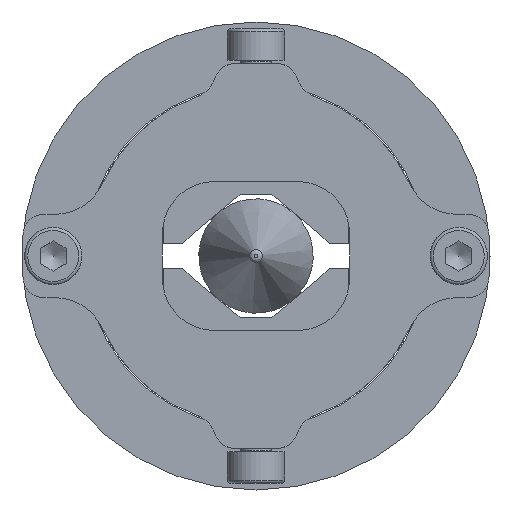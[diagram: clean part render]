
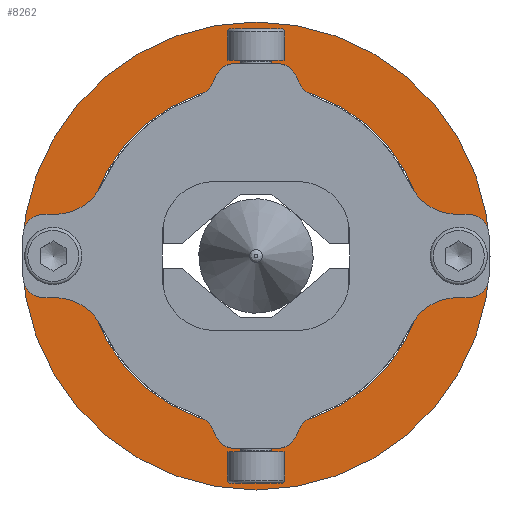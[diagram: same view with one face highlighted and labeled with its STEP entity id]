
A CAD part, front view. The second image highlights one B-rep face of the part: STEP entity #8262.
In plain terms, the highlighted planar face has unit normal (0, -1, 0).
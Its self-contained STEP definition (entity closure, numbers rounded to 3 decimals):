
#192=FACE_BOUND('',#1062,.T.);
#193=FACE_BOUND('',#1063,.T.);
#194=FACE_BOUND('',#1064,.T.);
#211=PLANE('',#8959);
#617=FACE_OUTER_BOUND('',#1061,.T.);
#1061=EDGE_LOOP('',(#5726));
#1062=EDGE_LOOP('',(#5727));
#1063=EDGE_LOOP('',(#5728));
#1064=EDGE_LOOP('',(#5729));
#3246=CIRCLE('',#8947,1.5);
#3248=CIRCLE('',#8951,1.5);
#3250=CIRCLE('',#8954,16.5);
#3252=CIRCLE('',#8957,22.5);
#3588=VERTEX_POINT('',#12161);
#3591=VERTEX_POINT('',#12170);
#3593=VERTEX_POINT('',#12176);
#3595=VERTEX_POINT('',#12182);
#4435=EDGE_CURVE('',#3588,#3588,#3246,.T.);
#4439=EDGE_CURVE('',#3591,#3591,#3248,.T.);
#4443=EDGE_CURVE('',#3593,#3593,#3250,.T.);
#4446=EDGE_CURVE('',#3595,#3595,#3252,.T.);
#5726=ORIENTED_EDGE('',*,*,#4446,.F.);
#5727=ORIENTED_EDGE('',*,*,#4435,.T.);
#5728=ORIENTED_EDGE('',*,*,#4439,.T.);
#5729=ORIENTED_EDGE('',*,*,#4443,.F.);
#8262=ADVANCED_FACE('',(#617,#192,#193,#194),#211,.F.);
#8947=AXIS2_PLACEMENT_3D('',#12162,#9735,#9736);
#8951=AXIS2_PLACEMENT_3D('',#12171,#9745,#9746);
#8954=AXIS2_PLACEMENT_3D('',#12178,#9753,#9754);
#8957=AXIS2_PLACEMENT_3D('',#12184,#9760,#9761);
#8959=AXIS2_PLACEMENT_3D('',#12186,#9764,#9765);
#9735=DIRECTION('center_axis',(0.,1.,0.));
#9736=DIRECTION('ref_axis',(1.,0.,0.));
#9745=DIRECTION('center_axis',(0.,1.,0.));
#9746=DIRECTION('ref_axis',(1.,0.,0.));
#9753=DIRECTION('center_axis',(0.,-1.,0.));
#9754=DIRECTION('ref_axis',(1.,0.,0.));
#9760=DIRECTION('center_axis',(0.,1.,0.));
#9761=DIRECTION('ref_axis',(-1.,0.,0.));
#9764=DIRECTION('center_axis',(0.,1.,0.));
#9765=DIRECTION('ref_axis',(0.,0.,1.));
#12161=CARTESIAN_POINT('',(-21.,0.,0.));
#12162=CARTESIAN_POINT('Origin',(-19.5,0.,0.));
#12170=CARTESIAN_POINT('',(18.,0.,0.));
#12171=CARTESIAN_POINT('Origin',(19.5,0.,0.));
#12176=CARTESIAN_POINT('',(-16.5,0.,0.));
#12178=CARTESIAN_POINT('Origin',(0.,0.,0.));
#12182=CARTESIAN_POINT('',(22.5,0.,0.));
#12184=CARTESIAN_POINT('Origin',(0.,0.,0.));
#12186=CARTESIAN_POINT('Origin',(0.,0.,0.));
